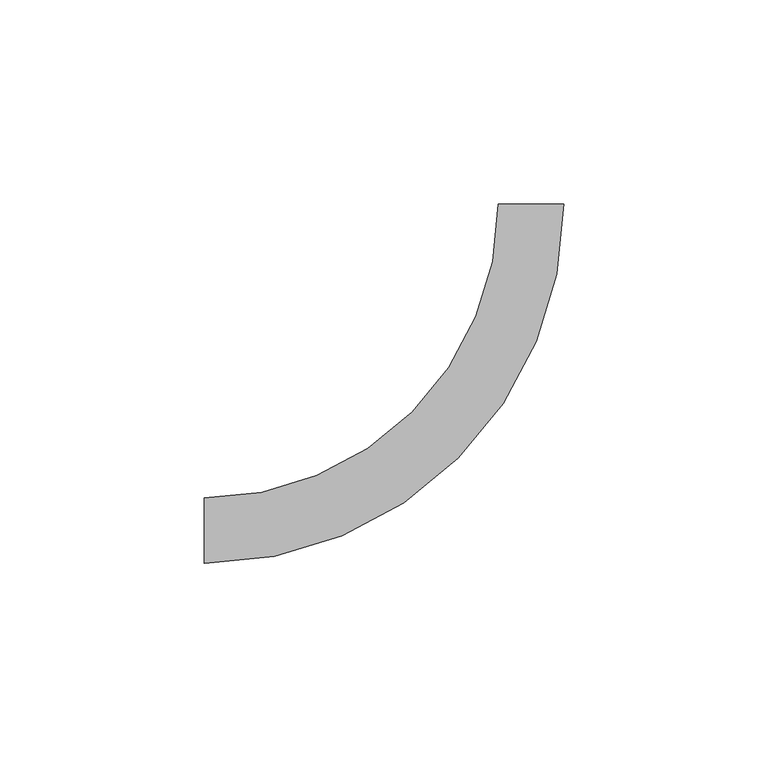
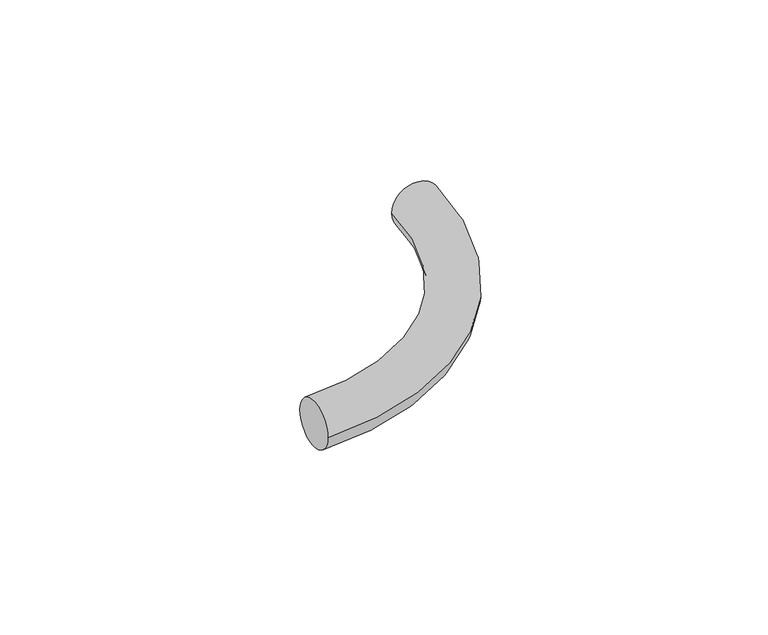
"""IFC4 building model written with IfcOpenShell, lengths in millimetres: pipe fitting geometry, БИР ПЕКС_Изгиб трубопровода_5D : Изгиб."""

from ifc_helpers import new_model, si_unit, point, frame, origin, place, context, project, spatial, circle_curve, ellipse_curve, trimmed, source, transform, mapped, element, save
from ifc_brep_helpers import plane_surface, revolved_surface, advanced_brep


def pipe_fitting_7ec8b6cb(model_context):
    return source(origin(), model_context, "Body", "AdvancedBrep", [
        advanced_brep(
        [(-80.0, -8.0, 0.0), (-80.0, 8.0, 0.0), (8.0, 80.0, 0.0), (-8.0, 80.0, 0.0)],
        [
            (0, 1, circle_curve(frame((-80.0, 0.0, 0.0), z_axis=(-1.0, 0.0, 0.0), x_axis=(0.0, 1.0, 0.0)), 8.0)),
            (1, 0, circle_curve(frame((-80.0, 0.0, 0.0), z_axis=(-1.0, 0.0, 0.0), x_axis=(0.0, 1.0, 0.0)), 8.0)),
            (2, 3, circle_curve(frame((0.0, 80.0, 0.0), z_axis=(0.0, 1.0, 0.0), x_axis=(-1.0, 0.0, 0.0)), 8.0)),
            (3, 2, circle_curve(frame((0.0, 80.0, 0.0), z_axis=(0.0, 1.0, 0.0), x_axis=(-1.0, 0.0, 0.0)), 8.0)),
            (3, 1, circle_curve(frame((-80.0, 80.0, 0.0), z_axis=(0.0, 0.0, -1.0), x_axis=(0.0, -1.0, 0.0)), 72.0)),
            (0, 2, circle_curve(frame((-80.0, 80.0, 0.0), z_axis=(0.0, 0.0, 1.0), x_axis=(0.0, -1.0, 0.0)), 88.0)),
        ],
        [
            plane_surface(frame((-80.0, 0.0, 0.0), z_axis=(-1.0, 0.0, 0.0), x_axis=(0.0, 0.0, 1.0))),
            plane_surface(frame((0.0, 80.0, 0.0), z_axis=(0.0, 1.0, 0.0), x_axis=(0.0, 0.0, 1.0))),
            revolved_surface(trimmed(ellipse_curve(frame((-80.0, 0.0, 0.0), z_axis=(-1.0, 0.0, 0.0), x_axis=(0.0, 1.0, 0.0)), 8.0, 8.0), [point((-80.0, -8.0, 0.0))], [point((-80.0, 8.0, 0.0))], True, "CARTESIAN"), (-80.0, 80.0, 0.0), (0.0, 0.0, 1.0)),
            revolved_surface(trimmed(ellipse_curve(frame((-80.0, 0.0, 0.0), z_axis=(-1.0, 0.0, 0.0), x_axis=(0.0, 1.0, 0.0)), 8.0, 8.0), [point((-80.0, 8.0, 0.0))], [point((-80.0, -8.0, 0.0))], True, "CARTESIAN"), (-80.0, 80.0, 0.0), (0.0, 0.0, 1.0)),
        ],
        [
            (0, [[1, 2]]),
            (1, [[3, 4]]),
            (2, [[5, -1, 6, -4]]),
            (3, [[-6, -2, -5, -3]]),
        ],
    ),
    ])


if __name__ == "__main__":
    model = new_model("IFC4")
    model_context = context("Model", 3, world=origin())
    ifc_project = project(units=[si_unit("LENGTHUNIT", "METRE", prefix="MILLI")], contexts=[model_context])
    site = spatial("IfcSite", under=ifc_project)
    building = spatial("IfcBuilding", under=site)
    placement = place(None, origin())
    pipe_fitting_shape = pipe_fitting_7ec8b6cb(model_context)
    element("IfcPipeFitting", 1, ObjectType="БИР ПЕКС_Изгиб трубопровода_5D : Изгиб", at=placement, inside=building, context=model_context, shape_type="MappedRepresentation", body=[
        mapped(pipe_fitting_shape, transform((0.0, 0.0, 0.0), x_axis=(1.0, 0.0, 0.0), y_axis=(0.0, 1.0, 0.0), z_axis=(0.0, 0.0, 1.0))),
    ])
    save(model, "model.ifc")
